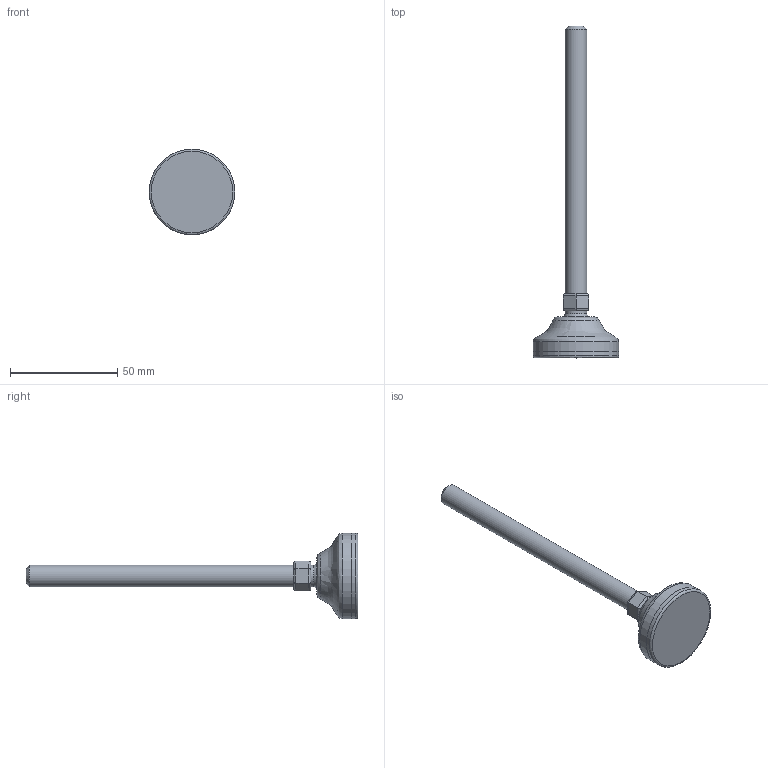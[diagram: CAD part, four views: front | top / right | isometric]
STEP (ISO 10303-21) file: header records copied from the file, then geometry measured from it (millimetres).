
FILE_DESCRIPTION(('STEP AP203'),'2;1');
FILE_NAME('10017.stp','2015-03-30T15:24:43',(''),(''),'2008.1.107','THINKDESIGN','');
FILE_SCHEMA(('CONFIG_CONTROL_DESIGN'));
Length unit declared in the file: millimetre
Bounding box: 40 x 155 x 40 mm (x, y, z)
Volume: 28066.4 mm3; surface area: 11304.2 mm2
Topology: 5 solids, 5 shells, 38 faces, 80 edges, 52 vertices
Faces by surface type: plane 16, cylinder 16, bspline 6
Full cylindrical faces by diameter (mm): 10 x1, 10.163 x1, 39.997 x1, 40 x1
Entity records: 1575 total; most frequent: CARTESIAN_POINT 681, DIRECTION 165, ORIENTED_EDGE 160, EDGE_CURVE 80, AXIS2_PLACEMENT_3D 65, VERTEX_POINT 52, EDGE_LOOP 38, FACE_OUTER_BOUND 38
